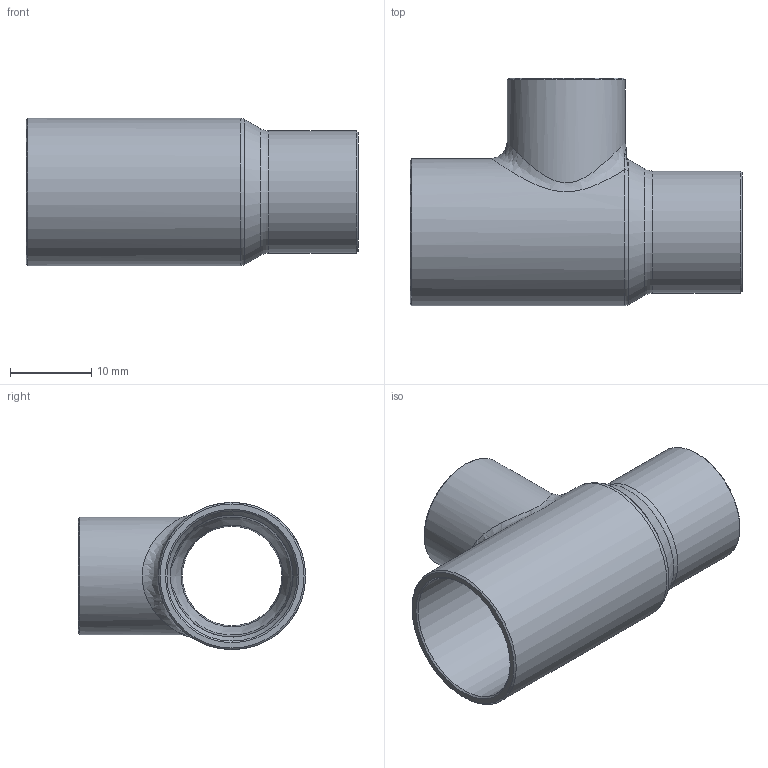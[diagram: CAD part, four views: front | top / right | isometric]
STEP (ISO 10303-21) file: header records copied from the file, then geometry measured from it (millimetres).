
FILE_DESCRIPTION((''),'2;1');
FILE_NAME('G:\SANHA-Ternat\Technik\Management\Bouwmaten + markeringen\z-maattekeningen 3D\29000s\29130581212_3d.stp','2017-07-31T15:46:47',('vdvijverd'),(''),'Autodesk Inventor 2009','Autodesk Inventor 2009','');
FILE_SCHEMA(('AUTOMOTIVE_DESIGN { 1 0 10303 214 1 1 1 1 }'));
Length unit declared in the file: millimetre
Products named in the file (1): 29130581212_3d
Bounding box: 40.8 x 27.95 x 18.1 mm (x, y, z)
Volume: 2879.6 mm3; surface area: 4921.6 mm2
Topology: 1 solids, 1 shells, 37 faces, 90 edges, 54 vertices
Faces by surface type: cone 11, cylinder 9, bspline 9, plane 4, torus 4
Full cylindrical faces by diameter (mm): 12.82 x2, 14.5 x1, 15.02 x1, 15.995 x1, 18.1 x1
Entity records: 2731 total; most frequent: CARTESIAN_POINT 2007, DIRECTION 132, ORIENTED_EDGE 128, AXIS2_PLACEMENT_3D 66, EDGE_CURVE 64, EDGE_LOOP 60, VERTEX_POINT 48, CIRCLE 37
